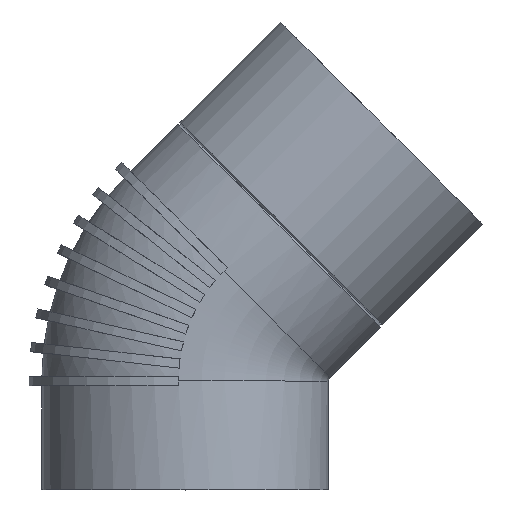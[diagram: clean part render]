
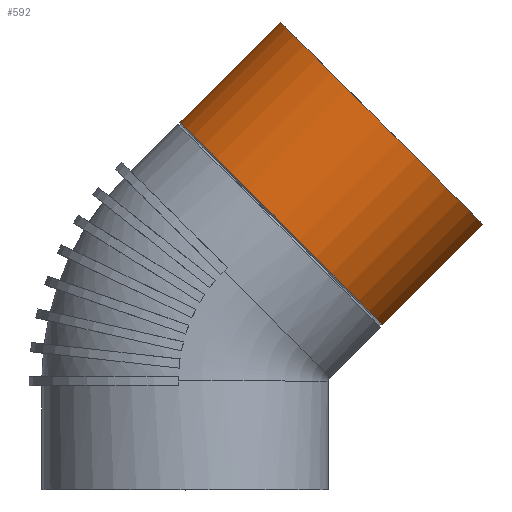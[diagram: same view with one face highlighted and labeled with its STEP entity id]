
A CAD part, top view. The second image highlights one B-rep face of the part: STEP entity #592.
In plain terms, the highlighted cylindrical face has radius 80 mm (diameter 160 mm), a full revolution.
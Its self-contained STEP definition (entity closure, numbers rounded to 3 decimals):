
#96=CYLINDRICAL_SURFACE($,#659,80.);
#114=FACE_BOUND($,#200,.T.);
#148=FACE_OUTER_BOUND($,#199,.T.);
#199=EDGE_LOOP($,(#518));
#200=EDGE_LOOP($,(#519));
#202=CIRCLE($,#598,80.);
#229=CIRCLE($,#658,80.);
#231=VERTEX_POINT($,#798);
#288=VERTEX_POINT($,#1943);
#290=EDGE_CURVE($,#231,#231,#202,.T.);
#365=EDGE_CURVE($,#288,#288,#229,.T.);
#518=ORIENTED_EDGE($,*,*,#290,.T.);
#519=ORIENTED_EDGE($,*,*,#365,.T.);
#592=ADVANCED_FACE($,(#148,#114),#96,.T.);
#598=AXIS2_PLACEMENT_3D($,#799,#666,#667);
#658=AXIS2_PLACEMENT_3D($,#1944,#790,#791);
#659=AXIS2_PLACEMENT_3D($,#1945,#792,#793);
#666=DIRECTION('center_axis',(0.707,0.707,0.));
#667=DIRECTION('ref_axis',(0.707,-0.707,0.));
#790=DIRECTION('center_axis',(-0.707,-0.707,0.));
#791=DIRECTION('ref_axis',(0.707,-0.707,0.));
#792=DIRECTION('center_axis',(-0.707,-0.707,0.));
#793=DIRECTION('ref_axis',(0.707,-0.707,0.));
#798=CARTESIAN_POINT('',(110.255,92.118,0.));
#799=CARTESIAN_POINT('Origin',(53.686,148.686,0.));
#1943=CARTESIAN_POINT('',(166.17,148.033,0.));
#1944=CARTESIAN_POINT('Origin',(109.602,204.602,0.));
#1945=CARTESIAN_POINT('Origin',(66.956,161.956,0.));
